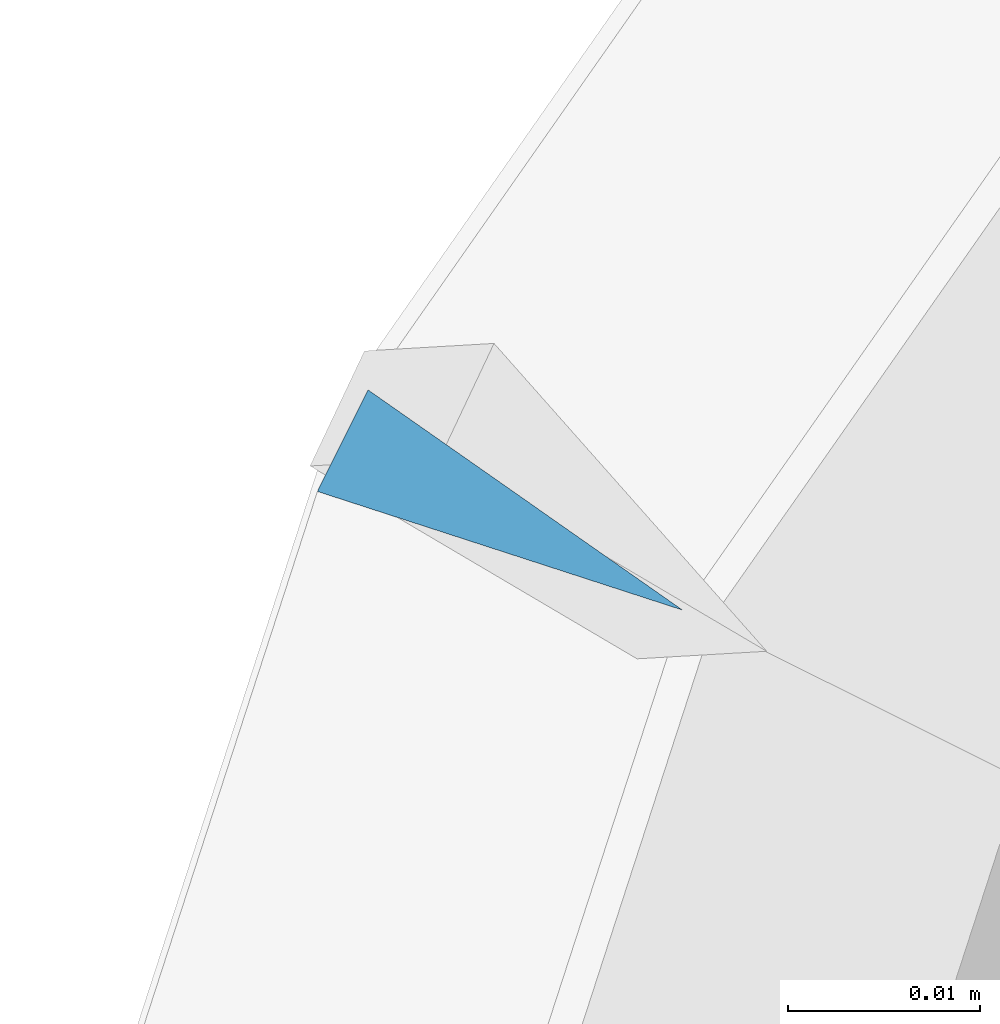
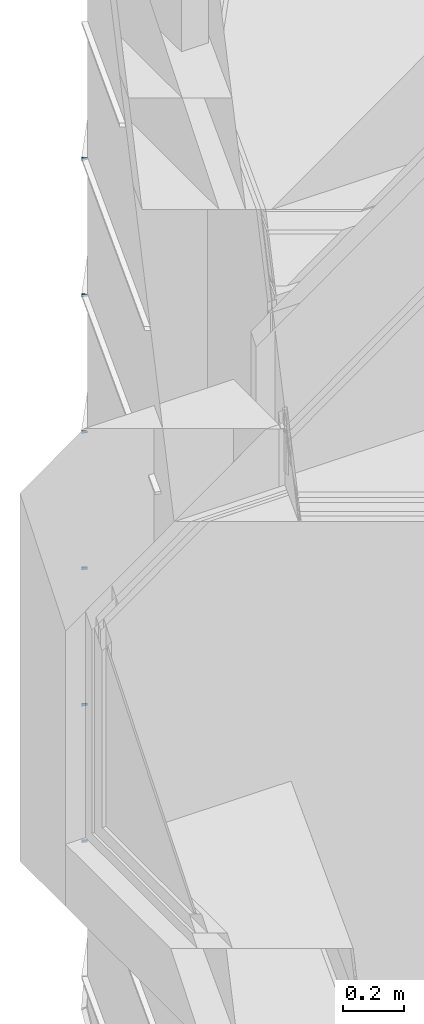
# One storey, part 337 of 583: 6 slabs.
"""IFC2X3 building model written with IfcOpenShell, lengths in metres."""

from ifc_helpers import new_model, entity, si_unit, converted_unit, derived_unit, money_unit, direction, frame, origin_with_axes, place, context, subcontext, project, spatial, faceted_brep, material, type_object, element, save


model = new_model("IFC2X3")

# Units and contexts
model_context = context("Model", 3, precision=1e-05, world=origin_with_axes(), true_north=direction((0.0, 1.0)))
body_context = subcontext(model_context, "Body", "Model", "MODEL_VIEW", scale=1.0)
ifc_project = project(units=[si_unit("LENGTHUNIT", "METRE"), si_unit("AREAUNIT", "SQUARE_METRE"), si_unit("VOLUMEUNIT", "CUBIC_METRE"), si_unit("ABSORBEDDOSEUNIT", "GRAY"), si_unit("AMOUNTOFSUBSTANCEUNIT", "MOLE"), si_unit("DOSEEQUIVALENTUNIT", "SIEVERT"), si_unit("ELECTRICCAPACITANCEUNIT", "FARAD"), si_unit("ELECTRICCHARGEUNIT", "COULOMB"), si_unit("ELECTRICCONDUCTANCEUNIT", "SIEMENS"), si_unit("ELECTRICCURRENTUNIT", "AMPERE"), si_unit("ELECTRICRESISTANCEUNIT", "OHM"), si_unit("ELECTRICVOLTAGEUNIT", "VOLT"), si_unit("ENERGYUNIT", "JOULE"), si_unit("FORCEUNIT", "NEWTON"), si_unit("FREQUENCYUNIT", "HERTZ"), si_unit("ILLUMINANCEUNIT", "LUX"), si_unit("INDUCTANCEUNIT", "HENRY"), si_unit("LUMINOUSFLUXUNIT", "LUMEN"), si_unit("LUMINOUSINTENSITYUNIT", "CANDELA"), si_unit("MAGNETICFLUXDENSITYUNIT", "TESLA"), si_unit("MAGNETICFLUXUNIT", "WEBER"), si_unit("MASSUNIT", "GRAM"), converted_unit("PLANEANGLEUNIT", "degree", entity("IfcReal", 0.0174532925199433), si_unit("PLANEANGLEUNIT", "RADIAN"), dimensions=[0, 0, 0, 0, 0, 0, 0]), si_unit("POWERUNIT", "WATT"), si_unit("PRESSUREUNIT", "PASCAL"), si_unit("RADIOACTIVITYUNIT", "BECQUEREL"), si_unit("SOLIDANGLEUNIT", "STERADIAN"), si_unit("THERMODYNAMICTEMPERATUREUNIT", "KELVIN"), si_unit("TIMEUNIT", "SECOND"), derived_unit("ACCELERATIONUNIT", [(si_unit("LENGTHUNIT", "METRE"), 1), (si_unit("TIMEUNIT", "SECOND"), -2)]), derived_unit("ANGULARVELOCITYUNIT", [(converted_unit("PLANEANGLEUNIT", "degree", entity("IfcReal", 0.0174532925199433), si_unit("PLANEANGLEUNIT", "RADIAN"), dimensions=[0, 0, 0, 0, 0, 0, 0]), 1), (si_unit("TIMEUNIT", "SECOND"), -1)]), derived_unit("CURVATUREUNIT", [(converted_unit("PLANEANGLEUNIT", "degree", entity("IfcReal", 0.0174532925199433), si_unit("PLANEANGLEUNIT", "RADIAN"), dimensions=[0, 0, 0, 0, 0, 0, 0]), 1), (si_unit("LENGTHUNIT", "METRE"), -1)]), derived_unit("DYNAMICVISCOSITYUNIT", [(si_unit("PRESSUREUNIT", "PASCAL"), 1), (si_unit("TIMEUNIT", "SECOND"), 1)]), derived_unit("HEATFLUXDENSITYUNIT", [(si_unit("POWERUNIT", "WATT"), 1), (si_unit("LENGTHUNIT", "METRE"), -2)]), derived_unit("HEATINGVALUEUNIT", [(si_unit("ENERGYUNIT", "JOULE"), 1), (si_unit("MASSUNIT", "GRAM"), -1)]), derived_unit("INTEGERCOUNTRATEUNIT", [(si_unit("TIMEUNIT", "SECOND"), -1)]), derived_unit("IONCONCENTRATIONUNIT", [(si_unit("MASSUNIT", "GRAM"), 1), (si_unit("VOLUMEUNIT", "CUBIC_METRE"), -1)]), derived_unit("ISOTHERMALMOISTURECAPACITYUNIT", [(si_unit("VOLUMEUNIT", "CUBIC_METRE"), 1), (si_unit("MASSUNIT", "GRAM"), -1)]), derived_unit("KINEMATICVISCOSITYUNIT", [(si_unit("AREAUNIT", "SQUARE_METRE"), 1), (si_unit("TIMEUNIT", "SECOND"), -1)]), derived_unit("LINEARFORCEUNIT", [(si_unit("FORCEUNIT", "NEWTON"), 1), (si_unit("LENGTHUNIT", "METRE"), -1)]), derived_unit("LINEARMOMENTUNIT", [(si_unit("FORCEUNIT", "NEWTON"), 1), (si_unit("LENGTHUNIT", "METRE"), -1)]), derived_unit("LINEARSTIFFNESSUNIT", [(si_unit("FORCEUNIT", "NEWTON"), 1), (si_unit("LENGTHUNIT", "METRE"), -1)]), derived_unit("LINEARVELOCITYUNIT", [(si_unit("LENGTHUNIT", "METRE"), 1), (si_unit("TIMEUNIT", "SECOND"), -1)]), derived_unit("LUMINOUSINTENSITYDISTRIBUTIONUNIT", [(si_unit("LUMINOUSINTENSITYUNIT", "CANDELA"), 1), (si_unit("LUMINOUSFLUXUNIT", "LUMEN"), -1)]), derived_unit("MASSDENSITYUNIT", [(si_unit("MASSUNIT", "GRAM"), 1), (si_unit("VOLUMEUNIT", "CUBIC_METRE"), -1)]), derived_unit("MASSFLOWRATEUNIT", [(si_unit("MASSUNIT", "GRAM"), 1), (si_unit("TIMEUNIT", "SECOND"), -1)]), derived_unit("MASSPERLENGTHUNIT", [(si_unit("MASSUNIT", "GRAM"), 1), (si_unit("LENGTHUNIT", "METRE"), -1)]), derived_unit("MODULUSOFELASTICITYUNIT", [(si_unit("FORCEUNIT", "NEWTON"), 1), (si_unit("AREAUNIT", "SQUARE_METRE"), -1)]), derived_unit("MODULUSOFLINEARSUBGRADEREACTIONUNIT", [(si_unit("FORCEUNIT", "NEWTON"), 1), (si_unit("LENGTHUNIT", "METRE"), -2)]), derived_unit("MODULUSOFROTATIONALSUBGRADEREACTIONUNIT", [(si_unit("FORCEUNIT", "NEWTON"), 1), (si_unit("LENGTHUNIT", "METRE"), 1)]), derived_unit("MODULUSOFSUBGRADEREACTIONUNIT", [(si_unit("FORCEUNIT", "NEWTON"), 1), (si_unit("VOLUMEUNIT", "CUBIC_METRE"), -1)]), derived_unit("MOISTUREDIFFUSIVITYUNIT", [(si_unit("VOLUMEUNIT", "CUBIC_METRE"), 1), (si_unit("TIMEUNIT", "SECOND"), -1)]), derived_unit("MOLECULARWEIGHTUNIT", [(si_unit("MASSUNIT", "GRAM"), 1), (si_unit("AMOUNTOFSUBSTANCEUNIT", "MOLE"), -1)]), derived_unit("PLANARFORCEUNIT", [(si_unit("FORCEUNIT", "NEWTON"), 1), (si_unit("LENGTHUNIT", "METRE"), -2)]), derived_unit("ROTATIONALFREQUENCYUNIT", [(si_unit("TIMEUNIT", "SECOND"), -1)]), derived_unit("ROTATIONALMASSUNIT", [(si_unit("MASSUNIT", "GRAM"), 1), (si_unit("LENGTHUNIT", "METRE"), 2)]), derived_unit("ROTATIONALSTIFFNESSUNIT", [(si_unit("FORCEUNIT", "NEWTON"), 1), (si_unit("LENGTHUNIT", "METRE"), 1), (converted_unit("PLANEANGLEUNIT", "degree", entity("IfcReal", 0.0174532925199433), si_unit("PLANEANGLEUNIT", "RADIAN"), dimensions=[0, 0, 0, 0, 0, 0, 0]), -1)]), derived_unit("SECTIONAREAINTEGRALUNIT", [(si_unit("LENGTHUNIT", "METRE"), 5)]), derived_unit("SECTIONMODULUSUNIT", [(si_unit("LENGTHUNIT", "METRE"), 3)]), derived_unit("SHEARMODULUSUNIT", [(si_unit("FORCEUNIT", "NEWTON"), 1), (si_unit("AREAUNIT", "SQUARE_METRE"), -1)]), derived_unit("SOUNDPOWERUNIT", [(si_unit("ENERGYUNIT", "JOULE"), 1), (si_unit("TIMEUNIT", "SECOND"), -1)]), derived_unit("SPECIFICHEATCAPACITYUNIT", [(si_unit("FORCEUNIT", "NEWTON"), 1), (si_unit("MASSUNIT", "GRAM"), -1), (si_unit("THERMODYNAMICTEMPERATUREUNIT", "KELVIN"), -1)]), derived_unit("TEMPERATUREGRADIENTUNIT", [(si_unit("THERMODYNAMICTEMPERATUREUNIT", "KELVIN"), 1), (si_unit("LENGTHUNIT", "METRE"), -1)]), derived_unit("THERMALADMITTANCEUNIT", [(si_unit("POWERUNIT", "WATT"), 1), (si_unit("AREAUNIT", "SQUARE_METRE"), -1), (si_unit("THERMODYNAMICTEMPERATUREUNIT", "KELVIN"), -1)]), derived_unit("THERMALCONDUCTANCEUNIT", [(si_unit("POWERUNIT", "WATT"), 1), (si_unit("LENGTHUNIT", "METRE"), -1), (si_unit("THERMODYNAMICTEMPERATUREUNIT", "KELVIN"), -1)]), derived_unit("THERMALEXPANSIONCOEFFICIENTUNIT", [(si_unit("THERMODYNAMICTEMPERATUREUNIT", "KELVIN"), -1)]), derived_unit("THERMALRESISTANCEUNIT", [(si_unit("AREAUNIT", "SQUARE_METRE"), 1), (si_unit("POWERUNIT", "WATT"), -1)]), derived_unit("THERMALTRANSMITTANCEUNIT", [(si_unit("POWERUNIT", "WATT"), 1), (si_unit("AREAUNIT", "SQUARE_METRE"), -1), (si_unit("THERMODYNAMICTEMPERATUREUNIT", "KELVIN"), -1)]), derived_unit("TORQUEUNIT", [(si_unit("FORCEUNIT", "NEWTON"), 1), (si_unit("LENGTHUNIT", "METRE"), 1)]), derived_unit("VAPORPERMEABILITYUNIT", [(si_unit("MASSUNIT", "GRAM"), 1), (si_unit("TIMEUNIT", "SECOND"), -1)]), derived_unit("VOLUMETRICFLOWRATEUNIT", [(si_unit("VOLUMEUNIT", "CUBIC_METRE"), 1), (si_unit("TIMEUNIT", "SECOND"), -1)]), derived_unit("WARPINGCONSTANTUNIT", [(si_unit("LENGTHUNIT", "METRE"), 6)]), derived_unit("WARPINGMOMENTUNIT", [(si_unit("FORCEUNIT", "NEWTON"), 1), (si_unit("LENGTHUNIT", "METRE"), 2)]), money_unit("GBP")], contexts=[model_context])

# Site, building, storey
site_placement = place(None, origin_with_axes())
site = spatial("IfcSite", under=ifc_project, at=site_placement, Name="Site", CompositionType="ELEMENT")
building_placement = place(site_placement, origin_with_axes())
building = spatial("IfcBuilding", under=site, at=building_placement, Name="Building01", CompositionType="ELEMENT")
storey_placement = place(building_placement, frame((0.0, 0.0, 20.78), z_axis=(0.0, 0.0, 1.0), x_axis=(1.0, 0.0, 0.0)))
storey = spatial("IfcBuildingStorey", under=building, at=storey_placement, Name="RL", CompositionType="ELEMENT", Elevation=20.78)

# Slabs
ifc_material = material(Name="A_BSUK_Roofs")
slab_type = type_object("IfcSlabType", Name="A-FloorsSlabs A_BSUK_Slabs", PredefinedType="FLOOR")
for number, where, z_axis, x_axis, name in (
    (1, (1.317877, 18.791933, -16.034976), (0.0, 1.0, 0.0), (0.0, 0.0, 1.0), "A-FloorsSlabs A_BSUK_Slabs"),
    (2, (1.317877, 18.791933, -16.582476), (0.0, 1.0, 0.0), (0.0, 0.0, 1.0), "A-FloorsSlabs A_BSUK_Slabs"),
    (3, (1.317877, 18.791933, -17.129976), (0.0, 1.0, 0.0), (0.0, 0.0, 1.0), "A-FloorsSlabs A_BSUK_Slabs"),
    (4, (1.317877, 18.791933, -17.677476), (0.0, 1.0, 0.0), (0.0, 0.0, 1.0), "A-FloorsSlabs A_BSUK_Slabs"),
    (5, (1.317877, 18.791933, -18.224976), (0.0, 1.0, 0.0), (0.0, 0.0, 1.0), "A-FloorsSlabs A_BSUK_Slabs"),
    (6, (1.317877, 18.791933, -18.772476), (0.0, 1.0, 0.0), (0.0, 0.0, 1.0), "A-FloorsSlabs A_BSUK_Slabs"),
):
    element("IfcSlab", number, at=place(storey_placement, frame(where, z_axis=z_axis, x_axis=x_axis)), inside=storey, type_object=slab_type, material=ifc_material, Name=name, ObjectType="A-FloorsSlabs A_BSUK_Slabs", context=body_context, shape_type="Brep", body=[
        faceted_brep([(0.0, 0.0, 0.0), (-0.01, 0.0, 0.0), (-0.01, -0.002638, -0.005291), (0.0, -0.002638, -0.005291), (-0.01, 0.016383, -0.011472), (0.0, 0.016383, -0.011472)], [[[0, 1, 2, 3]], [[3, 2, 4, 5]], [[5, 4, 1, 0]], [[1, 4, 2]], [[3, 5, 0]]]),
    ])

save(model, "model.ifc")
